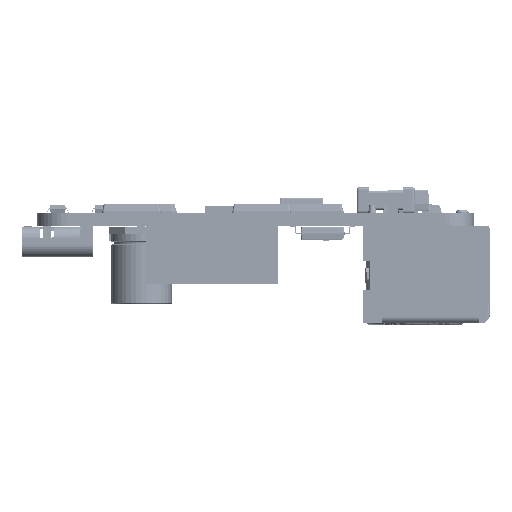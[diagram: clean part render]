
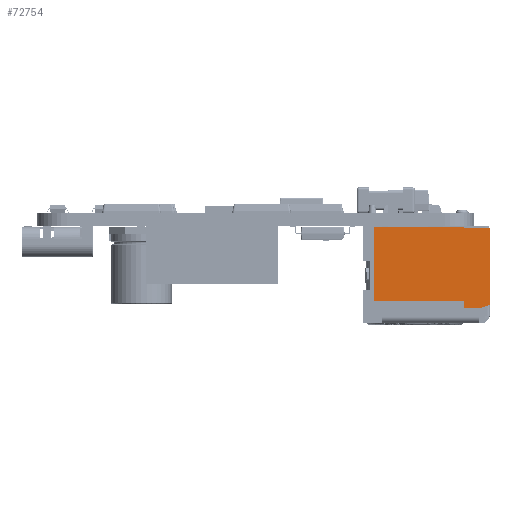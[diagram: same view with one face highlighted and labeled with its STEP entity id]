
A CAD part, left-side view. The second image highlights one B-rep face of the part: STEP entity #72754.
In plain terms, the highlighted planar face has unit normal (-1, 0, 0) as drawn and (1, 0, 0) by its records, which use the part's own axes.
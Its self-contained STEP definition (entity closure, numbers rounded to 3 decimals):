
#9700=FACE_OUTER_BOUND('',#13617,.T.);
#13617=EDGE_LOOP('',(#61236,#61237,#61238,#61239,#61240,#61241,#61242,#61243,
#61244));
#19807=LINE('',#125056,#27467);
#19817=LINE('',#125076,#27477);
#19825=LINE('',#125090,#27485);
#19881=LINE('',#125227,#27541);
#19889=LINE('',#125243,#27549);
#19899=LINE('',#125263,#27559);
#19917=LINE('',#125296,#27577);
#19921=LINE('',#125307,#27581);
#19922=LINE('',#125308,#27582);
#27467=VECTOR('',#93285,1.);
#27477=VECTOR('',#93303,1.);
#27485=VECTOR('',#93317,1.);
#27541=VECTOR('',#93459,1.);
#27549=VECTOR('',#93469,1.);
#27559=VECTOR('',#93483,1.);
#27577=VECTOR('',#93507,1.);
#27581=VECTOR('',#93523,1.);
#27582=VECTOR('',#93524,1.);
#34622=VERTEX_POINT('',#125053);
#34623=VERTEX_POINT('',#125055);
#34629=VERTEX_POINT('',#125075);
#34632=VERTEX_POINT('',#125089);
#34670=VERTEX_POINT('',#125226);
#34677=VERTEX_POINT('',#125242);
#34684=VERTEX_POINT('',#125260);
#34685=VERTEX_POINT('',#125262);
#34698=VERTEX_POINT('',#125306);
#43789=EDGE_CURVE('',#34623,#34622,#19807,.T.);
#43799=EDGE_CURVE('',#34629,#34623,#19817,.T.);
#43807=EDGE_CURVE('',#34632,#34629,#19825,.T.);
#43873=EDGE_CURVE('',#34670,#34632,#19881,.T.);
#43881=EDGE_CURVE('',#34677,#34670,#19889,.T.);
#43891=EDGE_CURVE('',#34685,#34684,#19899,.T.);
#43909=EDGE_CURVE('',#34684,#34677,#19917,.T.);
#43913=EDGE_CURVE('',#34622,#34698,#19921,.T.);
#43914=EDGE_CURVE('',#34698,#34685,#19922,.T.);
#61236=ORIENTED_EDGE('',*,*,#43789,.T.);
#61237=ORIENTED_EDGE('',*,*,#43913,.T.);
#61238=ORIENTED_EDGE('',*,*,#43914,.T.);
#61239=ORIENTED_EDGE('',*,*,#43891,.T.);
#61240=ORIENTED_EDGE('',*,*,#43909,.T.);
#61241=ORIENTED_EDGE('',*,*,#43881,.T.);
#61242=ORIENTED_EDGE('',*,*,#43873,.T.);
#61243=ORIENTED_EDGE('',*,*,#43807,.T.);
#61244=ORIENTED_EDGE('',*,*,#43799,.T.);
#69264=PLANE('',#79164);
#72754=ADVANCED_FACE('',(#9700),#69264,.T.);
#79164=AXIS2_PLACEMENT_3D('',#125305,#93521,#93522);
#93285=DIRECTION('',(0.,-1.,0.));
#93303=DIRECTION('',(0.,-0.33,0.944));
#93317=DIRECTION('',(0.,0.,1.));
#93459=DIRECTION('',(0.,1.,0.));
#93469=DIRECTION('',(0.,0.,1.));
#93483=DIRECTION('',(0.,0.,-1.));
#93507=DIRECTION('',(0.,1.,0.));
#93521=DIRECTION('center_axis',(1.,0.,0.));
#93522=DIRECTION('ref_axis',(0.,0.,-1.));
#93523=DIRECTION('',(0.,0.,-1.));
#93524=DIRECTION('',(0.,-1.,0.));
#125053=CARTESIAN_POINT('',(5.99,-3.78,0.));
#125055=CARTESIAN_POINT('',(5.99,4.15,0.));
#125056=CARTESIAN_POINT('',(5.99,4.15,0.));
#125075=CARTESIAN_POINT('',(5.99,4.5,-1.));
#125076=CARTESIAN_POINT('',(5.99,4.5,-1.));
#125089=CARTESIAN_POINT('',(5.99,4.5,-2.7));
#125090=CARTESIAN_POINT('',(5.99,4.5,-2.7));
#125226=CARTESIAN_POINT('',(5.99,3.75,-2.7));
#125227=CARTESIAN_POINT('',(5.99,3.75,-2.7));
#125242=CARTESIAN_POINT('',(5.99,3.75,-12.));
#125243=CARTESIAN_POINT('',(5.99,3.75,-12.));
#125260=CARTESIAN_POINT('',(5.99,-3.85,-12.));
#125262=CARTESIAN_POINT('',(5.99,-3.85,-2.7));
#125263=CARTESIAN_POINT('',(5.99,-3.85,-2.7));
#125296=CARTESIAN_POINT('',(5.99,-3.85,-12.));
#125305=CARTESIAN_POINT('Origin',(5.99,0.,0.));
#125306=CARTESIAN_POINT('',(5.99,-3.78,-2.7));
#125307=CARTESIAN_POINT('',(5.99,-3.78,0.));
#125308=CARTESIAN_POINT('',(5.99,-3.78,-2.7));
